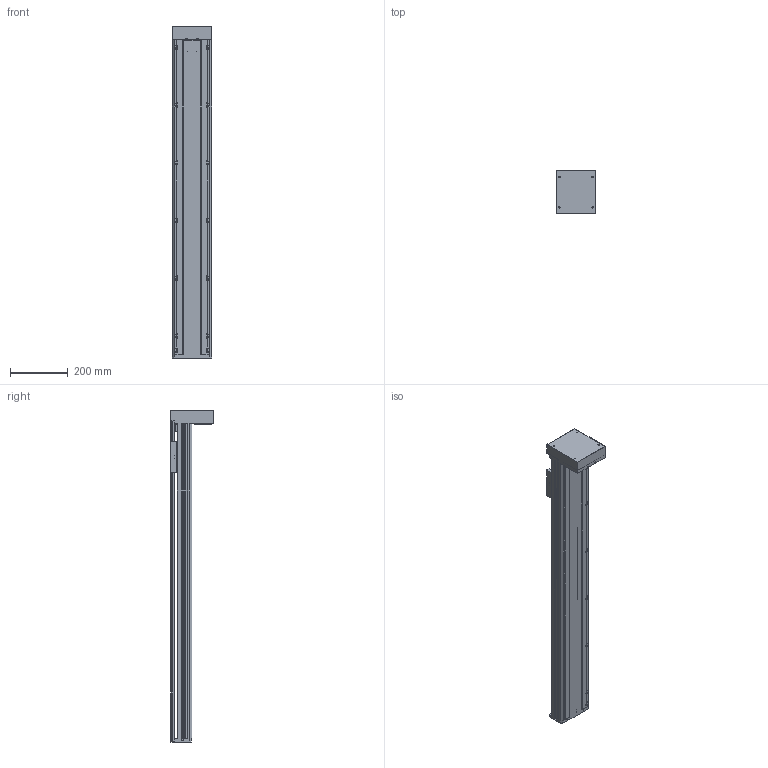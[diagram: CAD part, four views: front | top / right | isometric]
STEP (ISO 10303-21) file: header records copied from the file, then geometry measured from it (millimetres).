
FILE_DESCRIPTION(/* description */ (''),/* implementation_level */ '2;1');
FILE_NAME(/* name */ 'TKA136-FD-900_asm1.stp',/* time_stamp */ '2016-05-07T09:45:02+08:00',/* author */ (''),/* organization */ (''),/* preprocessor_version */ 'ST-DEVELOPER v15',/* originating_system */ 'SIEMENS PLM Software NX 8.5',/* authorisation */ '');
FILE_SCHEMA (('AUTOMOTIVE_DESIGN { 1 0 10303 214 3 1 1 1 }'));
Length unit declared in the file: millimetre
Products named in the file (3): 100-02; 100-01; TKA136-FD-900_asm1
Assembly tree (2 placements, depth 2):
  TKA136-FD-900_asm1
    100-01
    100-02
Bounding box: 136 x 152 x 1150 mm (x, y, z)
Volume: 3577744.3 mm3; surface area: 1390167.8 mm2
Topology: 2 solids, 13 shells, 960 faces, 2725 edges, 1757 vertices
Faces by surface type: cylinder 469, plane 426, cone 65
Full cylindrical faces by diameter (mm): 3 x2, 3.3 x13, 4 x4, 4.2 x8, 4.5 x14, 5 x14, 5.5 x26, 6.6 x18, 8 x12, 10 x9, 10.5 x14, 11 x4, 11.6 x1, 12 x9, 15 x3, 16 x5, 17 x1, 24 x5, 26 x1, 28 x1, 46 x1, 50 x2
Entity records: 32730 total; most frequent: CARTESIAN_POINT 8678, DIRECTION 5020, ORIENTED_EDGE 4774, EDGE_CURVE 2387, AXIS2_PLACEMENT_3D 1903, VERTEX_POINT 1656, EDGE_LOOP 1360, LINE 1214
